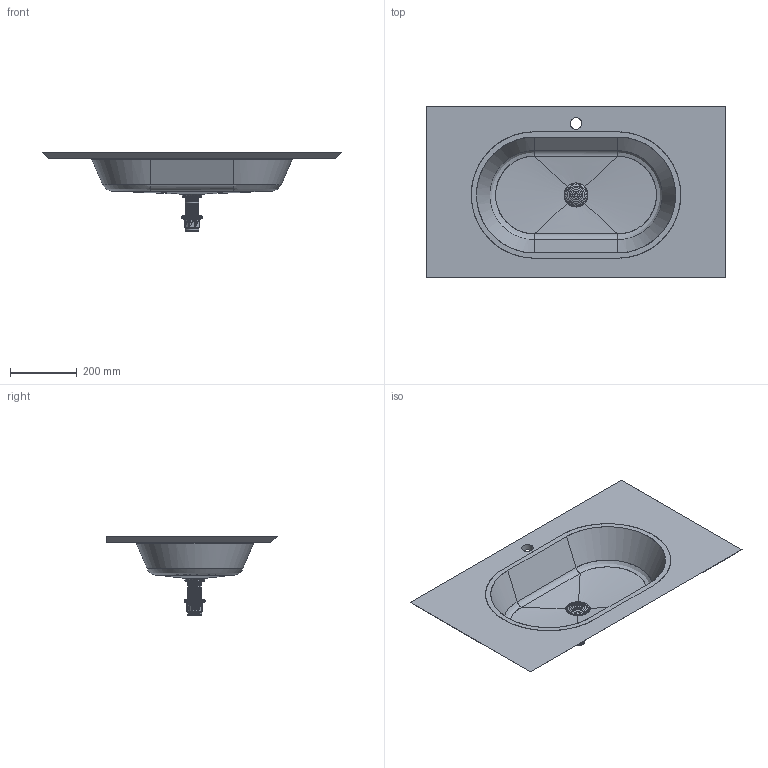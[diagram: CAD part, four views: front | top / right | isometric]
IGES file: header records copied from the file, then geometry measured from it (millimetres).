
Start section: Data from Parasolid IGES Translator 19.0.9, Copyright(c) 2006 Siemens PL M Software. All Rights Reserved.
Global section: file name: noorth-top-H 1,9 D 51,3 W 90_6539.igs; native system: By Siemens PLM Incorporated; preprocessor: XPlus GENERIC/IGES 19.0.9; author: Noname; organization: Noname; date: 20200603.093049; units: metre
Bounding box: 900 x 512 x 240 mm (x, y, z)
Volume: 4435858.3 mm3; surface area: 1268276.9 mm2
Topology: 1 solids, 1 shells, 11683 faces, 35184 edges, 35163 vertices
Faces by surface type: extrusion 11627, bspline 32, plane 11, revolution 10, cylinder 3
Full cylindrical faces by diameter (mm): 34.9 x1
